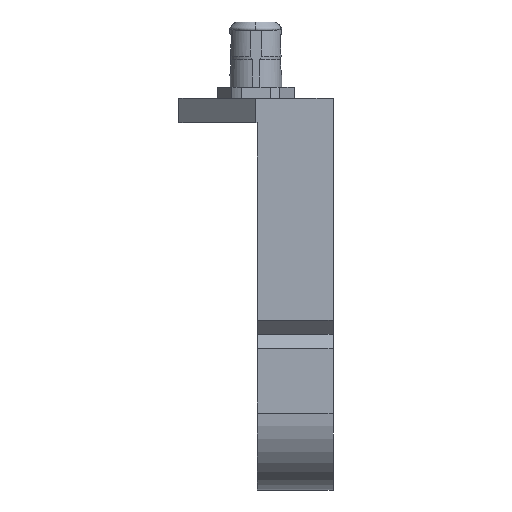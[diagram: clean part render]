
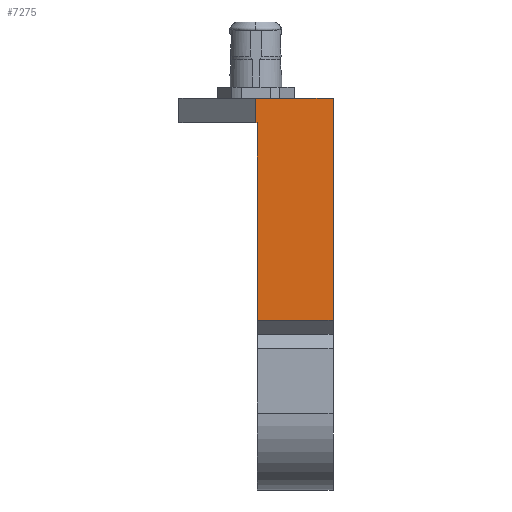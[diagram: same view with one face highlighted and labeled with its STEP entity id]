
A CAD part, left-side view. The second image highlights one B-rep face of the part: STEP entity #7275.
In plain terms, the highlighted planar face has unit normal (-1, 0, 0).
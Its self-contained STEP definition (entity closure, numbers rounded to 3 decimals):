
#65 = PLANE ( 'NONE',  #16132 ) ;
#110 = VECTOR ( 'NONE', #15056, 1000. ) ;
#1054 = EDGE_CURVE ( 'NONE', #5591, #7966, #7737, .T. ) ;
#1372 = DIRECTION ( 'NONE',  ( 0., 0., -1. ) ) ;
#2244 = CARTESIAN_POINT ( 'NONE',  ( -18.9, -0.125, -17.919 ) ) ;
#2298 = CARTESIAN_POINT ( 'NONE',  ( -18.9, -0.125, -2. ) ) ;
#2366 = DIRECTION ( 'NONE',  ( 0., 0., 1. ) ) ;
#2503 = VERTEX_POINT ( 'NONE', #10583 ) ;
#2556 = ORIENTED_EDGE ( 'NONE', *, *, #8878, .F. ) ;
#3494 = EDGE_CURVE ( 'NONE', #5496, #5591, #5804, .T. ) ;
#3865 = LINE ( 'NONE', #15061, #6324 ) ;
#4044 = LINE ( 'NONE', #9043, #5858 ) ;
#4066 = VECTOR ( 'NONE', #10460, 1000. ) ;
#4320 = VERTEX_POINT ( 'NONE', #4606 ) ;
#4512 = ORIENTED_EDGE ( 'NONE', *, *, #12875, .T. ) ;
#4564 = VERTEX_POINT ( 'NONE', #8206 ) ;
#4606 = CARTESIAN_POINT ( 'NONE',  ( -18.9, 0., 0. ) ) ;
#4632 = CARTESIAN_POINT ( 'NONE',  ( -18.9, -6.225, -17.919 ) ) ;
#4836 = CARTESIAN_POINT ( 'NONE',  ( -18.9, -6.225, -25.4 ) ) ;
#5001 = DIRECTION ( 'NONE',  ( 1., 0., 0. ) ) ;
#5128 = VECTOR ( 'NONE', #2366, 1000. ) ;
#5135 = CARTESIAN_POINT ( 'NONE',  ( -18.9, -0.125, -25.4 ) ) ;
#5181 = LINE ( 'NONE', #15420, #6436 ) ;
#5238 = FACE_OUTER_BOUND ( 'NONE', #14374, .T. ) ;
#5496 = VERTEX_POINT ( 'NONE', #4632 ) ;
#5591 = VERTEX_POINT ( 'NONE', #2244 ) ;
#5804 = LINE ( 'NONE', #13257, #4066 ) ;
#5858 = VECTOR ( 'NONE', #14035, 1000. ) ;
#5946 = ORIENTED_EDGE ( 'NONE', *, *, #1054, .F. ) ;
#6324 = VECTOR ( 'NONE', #14978, 1000. ) ;
#6436 = VECTOR ( 'NONE', #10396, 1000. ) ;
#6948 = EDGE_CURVE ( 'NONE', #5496, #2503, #11130, .T. ) ;
#7275 = ADVANCED_FACE ( 'NONE', ( #5238 ), #65, .F. ) ;
#7737 = LINE ( 'NONE', #5135, #110 ) ;
#7966 = VERTEX_POINT ( 'NONE', #2298 ) ;
#8206 = CARTESIAN_POINT ( 'NONE',  ( -18.9, 0., -2. ) ) ;
#8627 = EDGE_CURVE ( 'NONE', #4320, #2503, #5181, .T. ) ;
#8878 = EDGE_CURVE ( 'NONE', #4564, #4320, #3865, .T. ) ;
#9043 = CARTESIAN_POINT ( 'NONE',  ( -18.9, -6.225, -2. ) ) ;
#10396 = DIRECTION ( 'NONE',  ( 0., -1., 0. ) ) ;
#10460 = DIRECTION ( 'NONE',  ( 0., 1., 0. ) ) ;
#10583 = CARTESIAN_POINT ( 'NONE',  ( -18.9, -6.225, 0. ) ) ;
#11130 = LINE ( 'NONE', #4836, #5128 ) ;
#12833 = ORIENTED_EDGE ( 'NONE', *, *, #3494, .F. ) ;
#12875 = EDGE_CURVE ( 'NONE', #4564, #7966, #4044, .T. ) ;
#13257 = CARTESIAN_POINT ( 'NONE',  ( -18.9, -6.226, -17.919 ) ) ;
#13596 = ORIENTED_EDGE ( 'NONE', *, *, #6948, .T. ) ;
#14035 = DIRECTION ( 'NONE',  ( 0., -1., 0. ) ) ;
#14374 = EDGE_LOOP ( 'NONE', ( #5946, #12833, #13596, #15855, #2556, #4512 ) ) ;
#14978 = DIRECTION ( 'NONE',  ( 0., 0., 1. ) ) ;
#15056 = DIRECTION ( 'NONE',  ( 0., 0., 1. ) ) ;
#15061 = CARTESIAN_POINT ( 'NONE',  ( -18.9, 0., -2. ) ) ;
#15420 = CARTESIAN_POINT ( 'NONE',  ( -18.9, -2.175, 0. ) ) ;
#15855 = ORIENTED_EDGE ( 'NONE', *, *, #8627, .F. ) ;
#16132 = AXIS2_PLACEMENT_3D ( 'NONE', #16241, #5001, #1372 ) ;
#16241 = CARTESIAN_POINT ( 'NONE',  ( -18.9, -2.175, 0. ) ) ;
